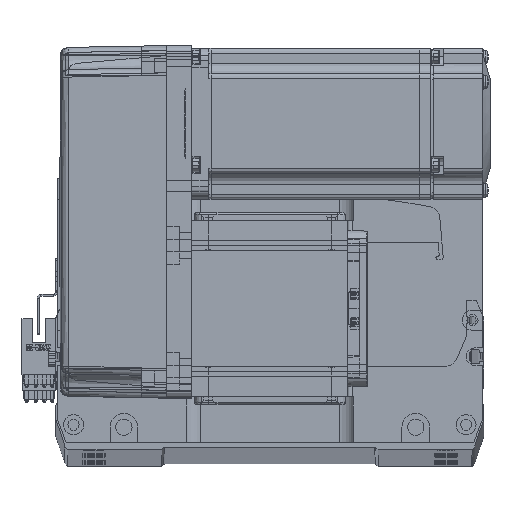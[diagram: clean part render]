
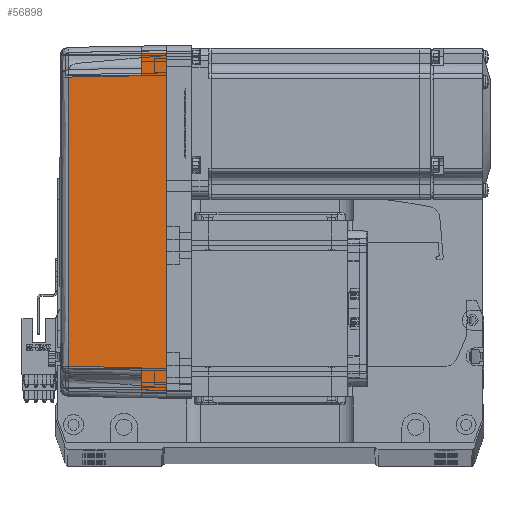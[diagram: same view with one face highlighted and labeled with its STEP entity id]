
A CAD part, top view. The second image highlights one B-rep face of the part: STEP entity #56898.
In plain terms, the highlighted planar face has unit normal (-0.018, 0, 1) as drawn and (0, 1, 0.017) by its records, which use the part's own axes.
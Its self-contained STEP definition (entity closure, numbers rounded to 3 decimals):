
#592 = ORIENTED_EDGE ( 'NONE', *, *, #41435, .T. ) ;
#2718 = LINE ( 'NONE', #14937, #16195 ) ;
#2871 = VECTOR ( 'NONE', #9933, 1000. ) ;
#4356 = DIRECTION ( 'NONE',  ( 0.017, -0.017, 1. ) ) ;
#5221 = LINE ( 'NONE', #65727, #68628 ) ;
#5563 = LINE ( 'NONE', #32943, #2871 ) ;
#9183 = VERTEX_POINT ( 'NONE', #48207 ) ;
#9933 = DIRECTION ( 'NONE',  ( 1., 0., 0. ) ) ;
#10733 = CARTESIAN_POINT ( 'NONE',  ( 57.495, 35.32, 38.985 ) ) ;
#10743 = LINE ( 'NONE', #62945, #30384 ) ;
#11366 = CARTESIAN_POINT ( 'NONE',  ( 66.826, 35.825, 10. ) ) ;
#11815 = EDGE_CURVE ( 'NONE', #45646, #60644, #5563, .T. ) ;
#12307 = LINE ( 'NONE', #25822, #64092 ) ;
#13074 = VERTEX_POINT ( 'NONE', #56699 ) ;
#13995 = DIRECTION ( 'NONE',  ( -0.017, -0.017, 1. ) ) ;
#14267 = VECTOR ( 'NONE', #30931, 1000. ) ;
#14346 = DIRECTION ( 'NONE',  ( 1., 0., 0. ) ) ;
#14937 = CARTESIAN_POINT ( 'NONE',  ( -67., 36., 0. ) ) ;
#16195 = VECTOR ( 'NONE', #4356, 1000. ) ;
#18684 = CARTESIAN_POINT ( 'NONE',  ( -57.495, 35.32, 38.985 ) ) ;
#21286 = CARTESIAN_POINT ( 'NONE',  ( -57.495, 35.32, 38.985 ) ) ;
#21446 = DIRECTION ( 'NONE',  ( 0.017, 0.017, -1. ) ) ;
#23642 = ORIENTED_EDGE ( 'NONE', *, *, #11815, .F. ) ;
#23711 = VERTEX_POINT ( 'NONE', #21286 ) ;
#24342 = LINE ( 'NONE', #50015, #57473 ) ;
#25822 = CARTESIAN_POINT ( 'NONE',  ( 67.001, 36.001, -0.052 ) ) ;
#30384 = VECTOR ( 'NONE', #52247, 1000. ) ;
#30888 = CARTESIAN_POINT ( 'NONE',  ( 57.495, 35.32, 38.985 ) ) ;
#30931 = DIRECTION ( 'NONE',  ( 1., 0., 0. ) ) ;
#31760 = CARTESIAN_POINT ( 'NONE',  ( 58., 35.825, 10. ) ) ;
#32943 = CARTESIAN_POINT ( 'NONE',  ( 0., 36., 0. ) ) ;
#33437 = ORIENTED_EDGE ( 'NONE', *, *, #34489, .T. ) ;
#34035 = EDGE_CURVE ( 'NONE', #60644, #69554, #12307, .T. ) ;
#34489 = EDGE_CURVE ( 'NONE', #23711, #54343, #48169, .T. ) ;
#35051 = ORIENTED_EDGE ( 'NONE', *, *, #47809, .T. ) ;
#38332 = PLANE ( 'NONE',  #50325 ) ;
#38577 = CARTESIAN_POINT ( 'NONE',  ( 70., 36., 0. ) ) ;
#41435 = EDGE_CURVE ( 'NONE', #55706, #69554, #5221, .T. ) ;
#43075 = ORIENTED_EDGE ( 'NONE', *, *, #72849, .T. ) ;
#45646 = VERTEX_POINT ( 'NONE', #57822 ) ;
#46494 = EDGE_CURVE ( 'NONE', #45646, #13074, #2718, .T. ) ;
#47809 = EDGE_CURVE ( 'NONE', #13074, #9183, #58881, .T. ) ;
#48169 = B_SPLINE_CURVE_WITH_KNOTS ( 'NONE', 3,
 ( #18684, #70322, #65065, #30888 ),
 .UNSPECIFIED., .F., .F.,
 ( 4, 4 ),
 ( 0., 1. ),
 .UNSPECIFIED. ) ;
#48207 = CARTESIAN_POINT ( 'NONE',  ( -58., 35.825, 10. ) ) ;
#49033 = ORIENTED_EDGE ( 'NONE', *, *, #58544, .T. ) ;
#50015 = CARTESIAN_POINT ( 'NONE',  ( 57.495, 35.32, 38.985 ) ) ;
#50325 = AXIS2_PLACEMENT_3D ( 'NONE', #38577, #72771, #55302 ) ;
#50421 = CARTESIAN_POINT ( 'NONE',  ( 67., 36., 0. ) ) ;
#52247 = DIRECTION ( 'NONE',  ( 0.017, -0.017, 1. ) ) ;
#53966 = ORIENTED_EDGE ( 'NONE', *, *, #46494, .T. ) ;
#54343 = VERTEX_POINT ( 'NONE', #10733 ) ;
#55302 = DIRECTION ( 'NONE',  ( 0., -0.017, 1. ) ) ;
#55706 = VERTEX_POINT ( 'NONE', #31760 ) ;
#56699 = CARTESIAN_POINT ( 'NONE',  ( -66.826, 35.825, 10. ) ) ;
#56898 = ADVANCED_FACE ( 'NONE', ( #61014 ), #38332, .T. ) ;
#57473 = VECTOR ( 'NONE', #21446, 1000. ) ;
#57822 = CARTESIAN_POINT ( 'NONE',  ( -67., 36., 0. ) ) ;
#58544 = EDGE_CURVE ( 'NONE', #9183, #23711, #10743, .T. ) ;
#58881 = LINE ( 'NONE', #64858, #14267 ) ;
#60644 = VERTEX_POINT ( 'NONE', #50421 ) ;
#61014 = FACE_OUTER_BOUND ( 'NONE', #64177, .T. ) ;
#62945 = CARTESIAN_POINT ( 'NONE',  ( -58., 35.825, 10. ) ) ;
#64092 = VECTOR ( 'NONE', #13995, 1000. ) ;
#64177 = EDGE_LOOP ( 'NONE', ( #53966, #35051, #49033, #33437, #43075, #592, #64569, #23642 ) ) ;
#64569 = ORIENTED_EDGE ( 'NONE', *, *, #34035, .F. ) ;
#64858 = CARTESIAN_POINT ( 'NONE',  ( 70., 35.825, 10. ) ) ;
#65065 = CARTESIAN_POINT ( 'NONE',  ( 19.165, 35.316, 39.181 ) ) ;
#65727 = CARTESIAN_POINT ( 'NONE',  ( 70., 35.825, 10. ) ) ;
#68628 = VECTOR ( 'NONE', #14346, 1000. ) ;
#69554 = VERTEX_POINT ( 'NONE', #11366 ) ;
#70322 = CARTESIAN_POINT ( 'NONE',  ( -19.165, 35.316, 39.181 ) ) ;
#72771 = DIRECTION ( 'NONE',  ( 0., 1., 0.017 ) ) ;
#72849 = EDGE_CURVE ( 'NONE', #54343, #55706, #24342, .T. ) ;
